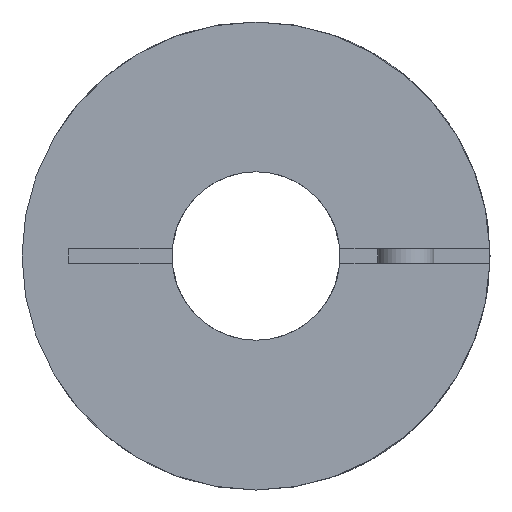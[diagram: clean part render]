
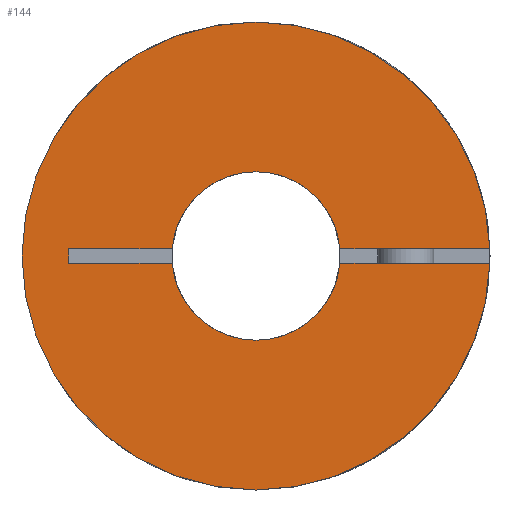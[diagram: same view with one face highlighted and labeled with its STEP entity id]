
A CAD part, left-side view. The second image highlights one B-rep face of the part: STEP entity #144.
In plain terms, the highlighted planar face has unit normal (-1, 0, 0).
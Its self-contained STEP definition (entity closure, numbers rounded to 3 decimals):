
#144=ADVANCED_FACE('',(#356),#357,.T.);
#356=FACE_OUTER_BOUND('',#650,.T.);
#357=PLANE('',#651);
#650=EDGE_LOOP('',(#1321,#1322,#1323,#1324,#1325,#1326,#1327,#1328,#1329,#1330,#1331,#1332));
#651=AXIS2_PLACEMENT_3D('',#1333,#1334,#1335);
#1321=ORIENTED_EDGE('',*,*,#1990,.T.);
#1322=ORIENTED_EDGE('',*,*,#2005,.T.);
#1323=ORIENTED_EDGE('',*,*,#2015,.F.);
#1324=ORIENTED_EDGE('',*,*,#2046,.F.);
#1325=ORIENTED_EDGE('',*,*,#2019,.T.);
#1326=ORIENTED_EDGE('',*,*,#1999,.T.);
#1327=ORIENTED_EDGE('',*,*,#1998,.T.);
#1328=ORIENTED_EDGE('',*,*,#2039,.F.);
#1329=ORIENTED_EDGE('',*,*,#1974,.F.);
#1330=ORIENTED_EDGE('',*,*,#2044,.F.);
#1331=ORIENTED_EDGE('',*,*,#1971,.F.);
#1332=ORIENTED_EDGE('',*,*,#2036,.T.);
#1333=CARTESIAN_POINT('',(0.,0.,0.));
#1334=DIRECTION('',(-1.0,0.0,0.0));
#1335=DIRECTION('',(0.0,-1.0,0.0));
#1971=EDGE_CURVE('',#2401,#2397,#2403,.T.);
#1974=EDGE_CURVE('',#2405,#2407,#2408,.T.);
#1990=EDGE_CURVE('',#2438,#2435,#2439,.T.);
#1998=EDGE_CURVE('',#2444,#2452,#2454,.T.);
#1999=EDGE_CURVE('',#2455,#2444,#2456,.T.);
#2005=EDGE_CURVE('',#2435,#2463,#2465,.T.);
#2015=EDGE_CURVE('',#2479,#2463,#2481,.F.);
#2019=EDGE_CURVE('',#2486,#2455,#2487,.T.);
#2036=EDGE_CURVE('',#2401,#2438,#2510,.T.);
#2039=EDGE_CURVE('',#2407,#2452,#2513,.F.);
#2044=EDGE_CURVE('',#2397,#2405,#2519,.T.);
#2046=EDGE_CURVE('',#2486,#2479,#2521,.F.);
#2397=VERTEX_POINT('',#3098);
#2401=VERTEX_POINT('',#3103);
#2403=CIRCLE('',#3106,12.5);
#2405=VERTEX_POINT('',#3133);
#2407=VERTEX_POINT('',#3136);
#2408=CIRCLE('',#3137,12.5);
#2435=VERTEX_POINT('',#3202);
#2438=VERTEX_POINT('',#3206);
#2439=CIRCLE('',#3207,4.5);
#2444=VERTEX_POINT('',#3213);
#2452=VERTEX_POINT('',#3223);
#2454=CIRCLE('',#3226,4.5);
#2455=VERTEX_POINT('',#3227);
#2456=CIRCLE('',#3228,4.5);
#2463=VERTEX_POINT('',#3236);
#2465=CIRCLE('',#3239,4.5);
#2479=VERTEX_POINT('',#3256);
#2481=LINE('',#3259,#3260);
#2486=VERTEX_POINT('',#3267);
#2487=LINE('',#3268,#3269);
#2510=LINE('',#3305,#3306);
#2513=LINE('',#3310,#3311);
#2519=CIRCLE('',#3318,12.5);
#2521=LINE('',#3321,#3322);
#3098=CARTESIAN_POINT('',(0.,0.,-12.5));
#3103=CARTESIAN_POINT('',(0.,-12.494,-0.4));
#3106=AXIS2_PLACEMENT_3D('',#3851,#3852,#3853);
#3133=CARTESIAN_POINT('',(0.,0.,12.5));
#3136=CARTESIAN_POINT('',(0.,-12.494,0.4));
#3137=AXIS2_PLACEMENT_3D('',#3855,#3856,#3857);
#3202=CARTESIAN_POINT('',(0.,0.,-4.5));
#3206=CARTESIAN_POINT('',(0.0,-4.482,-0.4));
#3207=AXIS2_PLACEMENT_3D('',#3884,#3885,#3886);
#3213=CARTESIAN_POINT('',(0.,0.,4.5));
#3223=CARTESIAN_POINT('',(0.0,-4.482,0.4));
#3226=AXIS2_PLACEMENT_3D('',#3900,#3901,#3902);
#3227=CARTESIAN_POINT('',(0.0,4.482,0.4));
#3228=AXIS2_PLACEMENT_3D('',#3903,#3904,#3905);
#3236=CARTESIAN_POINT('',(0.0,4.482,-0.4));
#3239=AXIS2_PLACEMENT_3D('',#3917,#3918,#3919);
#3256=CARTESIAN_POINT('',(0.,10.,-0.4));
#3259=CARTESIAN_POINT('',(0.,-10.0,-0.4));
#3260=VECTOR('',#3939,1.0);
#3267=CARTESIAN_POINT('',(0.,10.,0.4));
#3268=CARTESIAN_POINT('',(0.,-10.0,0.4));
#3269=VECTOR('',#3945,1.0);
#3305=CARTESIAN_POINT('',(0.,-10.0,-0.4));
#3306=VECTOR('',#3968,1.0);
#3310=CARTESIAN_POINT('',(0.,-10.0,0.4));
#3311=VECTOR('',#3973,1.0);
#3318=AXIS2_PLACEMENT_3D('',#3984,#3985,#3986);
#3321=CARTESIAN_POINT('',(0.,10.,0.2));
#3322=VECTOR('',#3988,1.0);
#3851=CARTESIAN_POINT('',(0.,0.,0.));
#3852=DIRECTION('',(1.0,0.0,-0.0));
#3853=DIRECTION('',(0.0,0.0,1.0));
#3855=CARTESIAN_POINT('',(0.,0.,0.));
#3856=DIRECTION('',(1.0,0.0,-0.0));
#3857=DIRECTION('',(0.0,0.0,1.0));
#3884=CARTESIAN_POINT('',(0.,0.0,0.0));
#3885=DIRECTION('',(1.0,0.0,-0.0));
#3886=DIRECTION('',(0.0,0.0,1.0));
#3900=CARTESIAN_POINT('',(0.,0.0,0.0));
#3901=DIRECTION('',(1.0,0.0,-0.0));
#3902=DIRECTION('',(0.0,0.0,1.0));
#3903=CARTESIAN_POINT('',(0.,0.0,0.0));
#3904=DIRECTION('',(1.0,0.0,-0.0));
#3905=DIRECTION('',(0.0,0.0,1.0));
#3917=CARTESIAN_POINT('',(0.,0.0,0.0));
#3918=DIRECTION('',(1.0,0.0,-0.0));
#3919=DIRECTION('',(0.0,0.0,1.0));
#3939=DIRECTION('',(0.0,1.0,0.0));
#3945=DIRECTION('',(0.0,-1.0,0.0));
#3968=DIRECTION('',(0.0,1.0,0.0));
#3973=DIRECTION('',(0.0,-1.0,0.0));
#3984=CARTESIAN_POINT('',(0.,0.,0.));
#3985=DIRECTION('',(1.0,0.0,-0.0));
#3986=DIRECTION('',(0.0,0.0,1.0));
#3988=DIRECTION('',(0.0,0.0,1.0));
